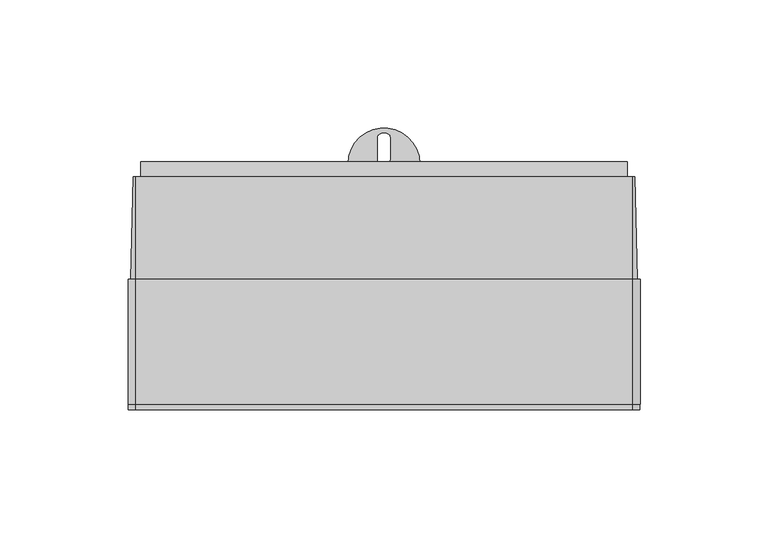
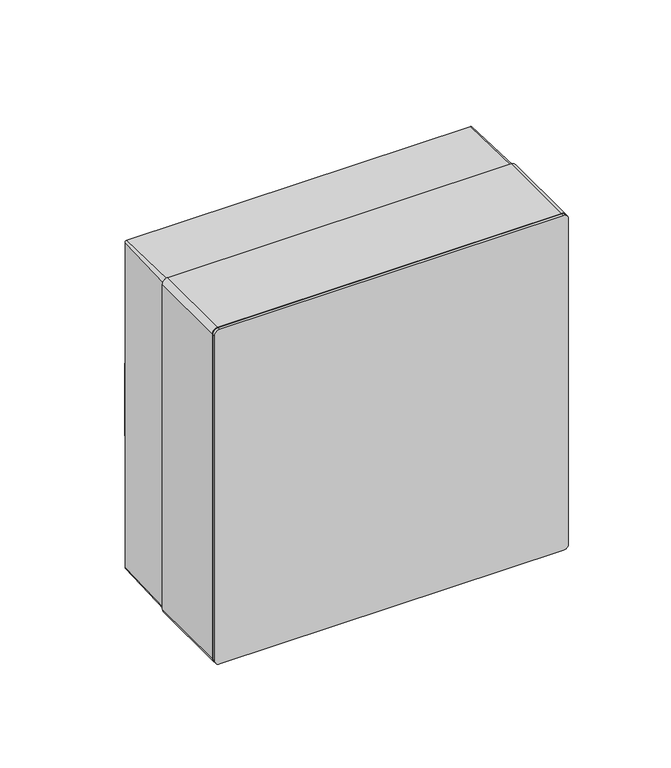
"""IFC4 building model written with IfcOpenShell, lengths in millimetres: proxy geometry, КМПнИ-8 : КМПнИ-8."""

from ifc_helpers import new_model, si_unit, point, frame, frame_2d, origin, place, context, project, spatial, polyline, circle_curve, trimmed, segment, composite_curve, outline, extrude, source, transform, mapped, element, save
from ifc_brep_helpers import plane_surface, cylinder_surface, revolved_surface, advanced_brep


def electrical_equipment_e5c25cb4(model_context):
    return source(origin(), model_context, "Body", "SolidModel", [
        advanced_brep(
        [(95.0, 91.0, 39.1505108), (95.0, 91.0, 158.5875038), (95.0, 81.0, 158.5875038), (95.0, 81.0, 39.1505108), (-95.0, 91.0, 39.1505108), (-95.0, 81.0, 39.1505108), (-95.0, 81.0, 158.5875038), (-95.0, 91.0, 158.5875038), (24.0, 91.0, 158.5875038), (24.0, 81.0, 158.5875038), (-24.0, 81.0, 158.5875038), (-24.0, 91.0, 158.5875038), (-14.0, 91.0, 39.1505108), (14.0, 91.0, 39.1505108), (24.0, 91.0, 165.0875038), (24.0, 88.0, 168.0875038), (24.0, 84.0, 168.0875038), (24.0, 81.0, 165.0875038), (-24.0, 81.0, 165.0875038), (-24.0, 84.0, 168.0875038), (-24.0, 88.0, 168.0875038), (-24.0, 91.0, 165.0875038), (-14.0, 96.0, 39.1505108), (14.0, 96.0, 39.1505108), (-2.5, 98.0, 39.1505108), (-2.5, 106.0, 39.1505108), (-0.5, 108.0, 39.1505108), (0.5, 108.0, 39.1505108), (2.5, 106.0, 39.1505108), (2.5, 98.0, 39.1505108), (0.5, 96.0, 39.1505108), (-0.5, 96.0, 39.1505108), (-14.0, 96.0, 33.1505108), (14.0, 96.0, 33.1505108), (14.0, 91.0, 33.1505108), (-14.0, 91.0, 33.1505108), (-2.5, 98.0, 33.1505108), (-0.5, 96.0, 33.1505108), (0.5, 96.0, 33.1505108), (2.5, 98.0, 33.1505108), (2.5, 106.0, 33.1505108), (0.5, 108.0, 33.1505108), (-0.5, 108.0, 33.1505108), (-2.5, 106.0, 33.1505108)],
        [
            (0, 1, circle_curve(frame((95.0, -181.7178029, 98.8690073), z_axis=(1.0, 0.0, 0.0), x_axis=(0.0, 0.0, -1.0)), 279.1796891)),
            (1, 2),
            (2, 3, circle_curve(frame((95.0, -191.7178029, 98.8690073), z_axis=(-1.0, 0.0, 0.0), x_axis=(0.0, 0.0, -1.0)), 279.1796891)),
            (3, 0),
            (4, 5),
            (5, 6, circle_curve(frame((-95.0, -191.7178029, 98.8690073), z_axis=(1.0, 0.0, 0.0), x_axis=(0.0, 0.0, -1.0)), 279.1796891)),
            (6, 7),
            (7, 4, circle_curve(frame((-95.0, -181.7178029, 98.8690073), z_axis=(-1.0, 0.0, 0.0), x_axis=(0.0, 0.0, -1.0)), 279.1796891)),
            (1, 8),
            (8, 9),
            (9, 2),
            (6, 10),
            (10, 11),
            (11, 7),
            (3, 5),
            (4, 12),
            (12, 13),
            (13, 0),
            (13, 12),
            (11, 8),
            (9, 10),
            (8, 14),
            (14, 15, circle_curve(frame((24.0, 88.0, 165.0875038), z_axis=(1.0, 0.0, 0.0), x_axis=(0.0, 1.0, 0.0)), 3.0)),
            (15, 16),
            (16, 17, circle_curve(frame((24.0, 84.0, 165.0875038), z_axis=(1.0, 0.0, 0.0), x_axis=(0.0, 1.0, 0.0)), 3.0)),
            (17, 9),
            (10, 18),
            (18, 19, circle_curve(frame((-24.0, 84.0, 165.0875038), z_axis=(-1.0, 0.0, 0.0), x_axis=(0.0, 1.0, 0.0)), 3.0)),
            (19, 20),
            (20, 21, circle_curve(frame((-24.0, 88.0, 165.0875038), z_axis=(-1.0, 0.0, 0.0), x_axis=(0.0, 1.0, 0.0)), 3.0)),
            (21, 11),
            (21, 14),
            (20, 15),
            (19, 16),
            (18, 17),
            (22, 12),
            (13, 23),
            (23, 22, circle_curve(frame((0.0, 96.0, 39.1505108), z_axis=(0.0, 0.0, 1.0), x_axis=(1.0, 0.0, 0.0)), 14.0)),
            (24, 25),
            (25, 26, circle_curve(frame((-0.5, 106.0, 39.1505108), z_axis=(0.0, 0.0, -1.0), x_axis=(1.0, 0.0, 0.0)), 2.0)),
            (26, 27),
            (27, 28, circle_curve(frame((0.5, 106.0, 39.1505108), z_axis=(0.0, 0.0, -1.0), x_axis=(1.0, 0.0, 0.0)), 2.0)),
            (28, 29),
            (29, 30, circle_curve(frame((0.5, 98.0, 39.1505108), z_axis=(0.0, 0.0, -1.0), x_axis=(1.0, 0.0, 0.0)), 2.0)),
            (30, 31),
            (31, 24, circle_curve(frame((-0.5, 98.0, 39.1505108), z_axis=(0.0, 0.0, -1.0), x_axis=(1.0, 0.0, 0.0)), 2.0)),
            (32, 33, circle_curve(frame((0.0, 96.0, 33.1505108), z_axis=(0.0, 0.0, -1.0), x_axis=(1.0, 0.0, 0.0)), 14.0)),
            (33, 34),
            (34, 35),
            (35, 32),
            (36, 37, circle_curve(frame((-0.5, 98.0, 33.1505108), z_axis=(0.0, 0.0, 1.0), x_axis=(1.0, 0.0, 0.0)), 2.0)),
            (37, 38),
            (38, 39, circle_curve(frame((0.5, 98.0, 33.1505108), z_axis=(0.0, 0.0, 1.0), x_axis=(1.0, 0.0, 0.0)), 2.0)),
            (39, 40),
            (40, 41, circle_curve(frame((0.5, 106.0, 33.1505108), z_axis=(0.0, 0.0, 1.0), x_axis=(1.0, 0.0, 0.0)), 2.0)),
            (41, 42),
            (42, 43, circle_curve(frame((-0.5, 106.0, 33.1505108), z_axis=(0.0, 0.0, 1.0), x_axis=(1.0, 0.0, 0.0)), 2.0)),
            (43, 36),
            (22, 32),
            (35, 12),
            (34, 13),
            (33, 23),
            (24, 36),
            (43, 25),
            (28, 40),
            (39, 29),
            (42, 26),
            (41, 27),
            (38, 30),
            (37, 31),
        ],
        [
            plane_surface(frame((95.0, -181.7178029, -180.3106818), z_axis=(1.0, 0.0, 0.0), x_axis=(0.0, 1.0, 0.0))),
            plane_surface(frame((-95.0, -181.7178029, -180.3106818), z_axis=(-1.0, 0.0, 0.0), x_axis=(0.0, -1.0, 0.0))),
            plane_surface(frame((95.0, 91.0, 158.5875038), z_axis=(0.0, 0.0, 1.0), x_axis=(-1.0, 0.0, 0.0))),
            plane_surface(frame((95.0, 81.0, 39.1505108), z_axis=(0.0, 0.0, -1.0), x_axis=(-1.0, 0.0, 0.0))),
            cylinder_surface(frame((-95.0, -181.7178029, 98.8690073), z_axis=(1.0, 0.0, 0.0), x_axis=(0.0, 0.0, -1.0)), 279.1796891),
            revolved_surface(polyline([(-95.0, -191.7178029, -180.3106818), (95.0, -191.7178029, -180.3106818)]), (-95.0, -191.7178029, 98.8690073), (-1.0, 0.0, 0.0)),
            plane_surface(frame((24.0, 91.0, 158.5875038), z_axis=(1.0, 0.0, 0.0), x_axis=(0.0, 1.0, 0.0))),
            plane_surface(frame((-24.0, 91.0, 158.5875038), z_axis=(-1.0, 0.0, 0.0), x_axis=(0.0, -1.0, 0.0))),
            plane_surface(frame((24.0, 91.0, 158.5875038), z_axis=(0.0, 1.0, 0.0), x_axis=(-1.0, 0.0, 0.0))),
            cylinder_surface(frame((-24.0, 88.0, 165.0875038), z_axis=(1.0, 0.0, 0.0), x_axis=(0.0, 1.0, 0.0)), 3.0),
            plane_surface(frame((24.0, 88.0, 168.0875038), z_axis=(0.0, 0.0, 1.0), x_axis=(-1.0, 0.0, 0.0))),
            cylinder_surface(frame((-24.0, 84.0, 165.0875038), z_axis=(1.0, 0.0, 0.0), x_axis=(0.0, 1.0, 0.0)), 3.0),
            plane_surface(frame((24.0, 81.0, 165.0875038), z_axis=(0.0, -1.0, 0.0), x_axis=(-1.0, 0.0, 0.0))),
            plane_surface(frame((-14.0, 81.0, 39.1505108), z_axis=(0.0, 0.0, 1.0), x_axis=(0.0, -1.0, 0.0))),
            plane_surface(frame((-14.0, 81.0, 33.1505108), z_axis=(0.0, 0.0, -1.0), x_axis=(0.0, 1.0, 0.0))),
            plane_surface(frame((-14.0, 96.0, 39.1505108), z_axis=(-1.0, 0.0, 0.0), x_axis=(0.0, 0.0, -1.0))),
            plane_surface(frame((-14.0, 91.0, 39.1505108), z_axis=(0.0, -1.0, 0.0), x_axis=(0.0, 0.0, -1.0))),
            plane_surface(frame((14.0, 91.0, 39.1505108), z_axis=(1.0, 0.0, 0.0), x_axis=(0.0, 0.0, -1.0))),
            plane_surface(frame((-2.5, 98.0, 39.1505108), z_axis=(1.0, 0.0, 0.0), x_axis=(0.0, 0.0, -1.0))),
            plane_surface(frame((2.5, 106.0, 39.1505108), z_axis=(-1.0, 0.0, 0.0), x_axis=(0.0, 0.0, -1.0))),
            cylinder_surface(frame((0.0, 96.0, 33.1505108), z_axis=(0.0, 0.0, 1.0), x_axis=(1.0, 0.0, 0.0)), 14.0),
            revolved_surface(polyline([(1.5, 106.0, 33.1505108), (1.5, 106.0, 39.1505108)]), (-0.5, 106.0, -32.1309927), (0.0, 0.0, -1.0)),
            plane_surface(frame((-0.5, 108.0, 39.1505108), z_axis=(0.0, -1.0, 0.0), x_axis=(0.0, 0.0, -1.0))),
            revolved_surface(polyline([(2.5, 106.0, 33.1505108), (2.5, 106.0, 39.1505108)]), (0.5, 106.0, -32.1309927), (0.0, 0.0, -1.0)),
            revolved_surface(polyline([(2.5, 98.0, 33.1505108), (2.5, 98.0, 39.1505108)]), (0.5, 98.0, -32.1309927), (0.0, 0.0, -1.0)),
            plane_surface(frame((0.5, 96.0, 39.1505108), z_axis=(0.0, 1.0, 0.0), x_axis=(0.0, 0.0, -1.0))),
            revolved_surface(polyline([(1.5, 98.0, 33.1505108), (1.5, 98.0, 39.1505108)]), (-0.5, 98.0, -32.1309927), (0.0, 0.0, -1.0)),
        ],
        [
            (0, [[1, 2, 3, 4]]),
            (1, [[5, 6, 7, 8]]),
            (2, [[-2, 9, 10, 11]]),
            (2, [[-7, 12, 13, 14]]),
            (3, [[-4, 15, -5, 16, 17, 18]]),
            (4, [[-1, -18, 19, -16, -8, -14, 20, -9]]),
            (5, [[-3, -11, 21, -12, -6, -15]]),
            (6, [[22, 23, 24, 25, 26, -10]]),
            (7, [[27, 28, 29, 30, 31, -13]]),
            (8, [[-22, -20, -31, 32]]),
            (9, [[-23, -32, -30, 33]]),
            (10, [[-24, -33, -29, 34]]),
            (11, [[-25, -34, -28, 35]]),
            (12, [[-26, -35, -27, -21]]),
            (13, [[36, -19, 37, 38], [39, 40, 41, 42, 43, 44, 45, 46]]),
            (14, [[47, 48, 49, 50], [51, 52, 53, 54, 55, 56, 57, 58]]),
            (15, [[-36, 59, -50, 60]]),
            (16, [[-49, 61, -17, -60]]),
            (17, [[-37, -61, -48, 62]]),
            (18, [[-39, 63, -58, 64]]),
            (19, [[-43, 65, -54, 66]]),
            (20, [[-38, -62, -47, -59]]),
            (21, [[-40, -64, -57, 67]]),
            (22, [[-41, -67, -56, 68]]),
            (23, [[-42, -68, -55, -65]]),
            (24, [[-44, -66, -53, 69]]),
            (25, [[-45, -69, -52, 70]]),
            (26, [[-46, -70, -51, -63]]),
        ],
    ),
        advanced_brep(
        [(80.6663126, 91.0, 190.471979), (80.6663126, 51.0, 190.471979), (90.6663126, 51.0, 190.471979), (90.6663126, 91.0, 190.471979), (97.0, 91.0, 198.0), (98.0, 91.0, 197.0), (98.0, 91.0, 3.0), (97.0, 91.0, 2.0), (-97.0, 91.0, 2.0), (-98.0, 91.0, 3.0), (-98.0, 91.0, 197.0), (-97.0, 91.0, 198.0), (-95.0, 91.0, 159.0), (-95.0, 91.0, 39.0), (-15.0, 91.0, 39.0), (-15.0, 91.0, 31.0), (0.0, 91.0, 31.0), (15.0, 91.0, 31.0), (15.0, 91.0, 39.0), (95.0, 91.0, 39.0), (95.0, 91.0, 159.0), (25.0, 91.0, 159.0), (25.0, 91.0, 169.0), (0.0, 91.0, 169.0), (-25.0, 91.0, 169.0), (-25.0, 91.0, 159.0), (-90.6663126, 91.0, 190.471979), (-80.6663126, 91.0, 190.471979), (90.6663126, 91.0, 9.528021), (80.6663126, 91.0, 9.528021), (-80.6663126, 91.0, 9.528021), (-90.6663126, 91.0, 9.528021), (97.0, 51.0, 199.0), (-97.0, 51.0, 199.0), (-99.0, 51.0, 197.0), (-99.0, 51.0, 3.0), (-97.0, 51.0, 1.0), (97.0, 51.0, 1.0), (99.0, 51.0, 3.0), (99.0, 51.0, 197.0), (-80.6663126, 51.0, 190.471979), (-90.6663126, 51.0, 190.471979), (80.6663126, 51.0, 9.528021), (90.6663126, 51.0, 9.528021), (-90.6663126, 51.0, 9.528021), (-80.6663126, 51.0, 9.528021), (-95.0, 83.4974153, 159.0), (-95.0, 83.4974153, 39.0), (95.0, 83.4974153, 39.0), (95.0, 83.4974153, 159.0), (25.0, 83.4974153, 159.0), (25.0, 83.4974153, 169.0), (0.0, 83.4974153, 169.0), (-25.0, 83.4974153, 169.0), (-25.0, 83.4974153, 159.0), (-15.0, 83.4974153, 39.0), (-15.0, 83.4974153, 31.0), (0.0, 83.4974153, 31.0), (15.0, 83.4974153, 31.0), (15.0, 83.4974153, 39.0)],
        [
            (0, 1),
            (1, 2, circle_curve(frame((85.6663126, 51.0, 190.471979), z_axis=(0.0, -1.0, 0.0), x_axis=(-1.0, 0.0, 0.0)), 5.0)),
            (2, 3),
            (3, 0, circle_curve(frame((85.6663126, 91.0, 190.471979), z_axis=(0.0, 1.0, 0.0), x_axis=(-1.0, 0.0, 0.0)), 5.0)),
            (0, 3, circle_curve(frame((85.6663126, 91.0, 190.471979), z_axis=(0.0, 1.0, 0.0), x_axis=(-1.0, 0.0, 0.0)), 5.0)),
            (2, 1, circle_curve(frame((85.6663126, 51.0, 190.471979), z_axis=(0.0, -1.0, 0.0), x_axis=(-1.0, 0.0, 0.0)), 5.0)),
            (4, 5, circle_curve(frame((97.0, 91.0, 197.0), z_axis=(0.0, 1.0, 0.0), x_axis=(0.0, 0.0, 1.0)), 1.0)),
            (5, 6),
            (6, 7, circle_curve(frame((97.0, 91.0, 3.0), z_axis=(0.0, 1.0, 0.0), x_axis=(1.0, 0.0, 0.0)), 1.0)),
            (7, 8),
            (8, 9, circle_curve(frame((-97.0, 91.0, 3.0), z_axis=(0.0, 1.0, 0.0), x_axis=(0.0, 0.0, -1.0)), 1.0)),
            (9, 10),
            (10, 11, circle_curve(frame((-97.0, 91.0, 197.0), z_axis=(0.0, 1.0, 0.0), x_axis=(-1.0, 0.0, 0.0)), 1.0)),
            (11, 4),
            (12, 13),
            (13, 14),
            (14, 15),
            (15, 16),
            (16, 17),
            (17, 18),
            (18, 19),
            (19, 20),
            (20, 21),
            (21, 22),
            (22, 23),
            (23, 24),
            (24, 25),
            (25, 12),
            (26, 27, circle_curve(frame((-85.6663126, 91.0, 190.471979), z_axis=(0.0, -1.0, 0.0), x_axis=(1.0, 0.0, 0.0)), 5.0)),
            (27, 26, circle_curve(frame((-85.6663126, 91.0, 190.471979), z_axis=(0.0, -1.0, 0.0), x_axis=(1.0, 0.0, 0.0)), 5.0)),
            (28, 29, circle_curve(frame((85.6663126, 91.0, 9.528021), z_axis=(0.0, -1.0, 0.0), x_axis=(-1.0, 0.0, 0.0)), 5.0)),
            (29, 28, circle_curve(frame((85.6663126, 91.0, 9.528021), z_axis=(0.0, -1.0, 0.0), x_axis=(-1.0, 0.0, 0.0)), 5.0)),
            (30, 31, circle_curve(frame((-85.6663126, 91.0, 9.528021), z_axis=(0.0, -1.0, 0.0), x_axis=(1.0, 0.0, 0.0)), 5.0)),
            (31, 30, circle_curve(frame((-85.6663126, 91.0, 9.528021), z_axis=(0.0, -1.0, 0.0), x_axis=(1.0, 0.0, 0.0)), 5.0)),
            (32, 33),
            (33, 34, circle_curve(frame((-97.0, 51.0, 197.0), z_axis=(0.0, -1.0, 0.0), x_axis=(-1.0, 0.0, 0.0)), 2.0)),
            (34, 35),
            (35, 36, circle_curve(frame((-97.0, 51.0, 3.0), z_axis=(0.0, -1.0, 0.0), x_axis=(0.0, 0.0, -1.0)), 2.0)),
            (36, 37),
            (37, 38, circle_curve(frame((97.0, 51.0, 3.0), z_axis=(0.0, -1.0, 0.0), x_axis=(1.0, 0.0, 0.0)), 2.0)),
            (38, 39),
            (39, 32, circle_curve(frame((97.0, 51.0, 197.0), z_axis=(0.0, -1.0, 0.0), x_axis=(0.0, 0.0, 1.0)), 2.0)),
            (40, 41, circle_curve(frame((-85.6663126, 51.0, 190.471979), z_axis=(0.0, 1.0, 0.0), x_axis=(1.0, 0.0, 0.0)), 5.0)),
            (41, 40, circle_curve(frame((-85.6663126, 51.0, 190.471979), z_axis=(0.0, 1.0, 0.0), x_axis=(1.0, 0.0, 0.0)), 5.0)),
            (42, 43, circle_curve(frame((85.6663126, 51.0, 9.528021), z_axis=(0.0, 1.0, 0.0), x_axis=(-1.0, 0.0, 0.0)), 5.0)),
            (43, 42, circle_curve(frame((85.6663126, 51.0, 9.528021), z_axis=(0.0, 1.0, 0.0), x_axis=(-1.0, 0.0, 0.0)), 5.0)),
            (44, 45, circle_curve(frame((-85.6663126, 51.0, 9.528021), z_axis=(0.0, 1.0, 0.0), x_axis=(1.0, 0.0, 0.0)), 5.0)),
            (45, 44, circle_curve(frame((-85.6663126, 51.0, 9.528021), z_axis=(0.0, 1.0, 0.0), x_axis=(1.0, 0.0, 0.0)), 5.0)),
            (11, 33),
            (32, 4),
            (10, 34),
            (9, 35),
            (8, 36),
            (7, 37),
            (6, 38),
            (5, 39),
            (46, 47),
            (47, 13),
            (12, 46),
            (48, 49),
            (49, 20),
            (19, 48),
            (49, 50),
            (50, 21),
            (50, 51),
            (51, 22),
            (51, 52),
            (52, 23),
            (52, 53),
            (53, 24),
            (53, 54),
            (54, 25),
            (54, 46),
            (47, 55),
            (55, 14),
            (55, 56),
            (56, 15),
            (56, 57),
            (57, 16),
            (57, 58),
            (58, 17),
            (58, 59),
            (59, 18),
            (59, 48),
            (26, 41),
            (40, 27),
            (28, 43),
            (42, 29),
            (30, 45),
            (44, 31),
        ],
        [
            revolved_surface(polyline([(80.6663126, 51.0, 190.471979), (80.6663126, 91.0, 190.471979)]), (85.6663126, 91.0, 190.471979), (0.0, -1.0, 0.0)),
            plane_surface(frame((0.0, 91.0, 100.0), z_axis=(0.0, 1.0, 0.0), x_axis=(-1.0, 0.0, 0.0))),
            plane_surface(frame((0.0, 51.0, 100.0), z_axis=(0.0, -1.0, 0.0), x_axis=(-1.0, 0.0, 0.0))),
            plane_surface(frame((0.0, 51.0, 199.0), z_axis=(0.0, 0.024992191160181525, 0.9996876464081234), x_axis=(1.0, 0.0, 0.0))),
            revolved_surface(polyline([(-98.0, 91.0, 197.0), (-99.0, 51.0, 197.0)]), (-97.0, 131.0, 197.0), (0.0, -1.0, 0.0)),
            plane_surface(frame((-99.0, 51.0, 100.0), z_axis=(-0.9996876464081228, 0.024992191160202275, 0.0), x_axis=(0.0, 0.0, 1.0))),
            revolved_surface(polyline([(-97.0, 91.0, 2.0), (-97.0, 51.0, 1.0)]), (-97.0, 131.0, 3.0), (0.0, -1.0, 0.0)),
            plane_surface(frame((0.0, 51.0, 1.0), z_axis=(0.0, 0.0249921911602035, -0.9996876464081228), x_axis=(-1.0, 0.0, 0.0))),
            revolved_surface(polyline([(98.0, 91.0, 3.0), (99.0, 51.0, 3.0)]), (97.0, 131.0, 3.0), (0.0, -1.0, 0.0)),
            plane_surface(frame((99.0, 51.0, 100.0), z_axis=(0.9996876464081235, 0.02499219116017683, 0.0), x_axis=(0.0, 0.0, -1.0))),
            revolved_surface(polyline([(97.0, 91.0, 198.0), (97.0, 51.0, 199.0)]), (97.0, 131.0, 197.0), (0.0, -1.0, 0.0)),
            plane_surface(frame((-95.0, 83.4974153, 159.0), z_axis=(1.0, 0.0, 0.0), x_axis=(0.0, 1.0, 0.0))),
            plane_surface(frame((95.0, 83.4974153, 39.0), z_axis=(-1.0, 0.0, 0.0), x_axis=(0.0, 1.0, 0.0))),
            plane_surface(frame((95.0, 83.4974153, 159.0), z_axis=(0.0, 0.0, -1.0), x_axis=(0.0, 1.0, 0.0))),
            plane_surface(frame((25.0, 83.4974153, 159.0), z_axis=(-1.0, 0.0, 0.0), x_axis=(0.0, 1.0, 0.0))),
            plane_surface(frame((25.0, 83.4974153, 169.0), z_axis=(0.0, 0.0, -1.0), x_axis=(0.0, 1.0, 0.0))),
            plane_surface(frame((0.0, 83.4974153, 169.0), z_axis=(0.0, 0.0, -1.0), x_axis=(0.0, 1.0, 0.0))),
            plane_surface(frame((-25.0, 83.4974153, 169.0), z_axis=(1.0, 0.0, 0.0), x_axis=(0.0, 1.0, 0.0))),
            plane_surface(frame((-25.0, 83.4974153, 159.0), z_axis=(0.0, 0.0, -1.0), x_axis=(0.0, 1.0, 0.0))),
            plane_surface(frame((-95.0, 83.4974153, 39.0), z_axis=(0.0, 0.0, 1.0), x_axis=(0.0, 1.0, 0.0))),
            plane_surface(frame((-15.0, 83.4974153, 39.0), z_axis=(1.0, 0.0, 0.0), x_axis=(0.0, 1.0, 0.0))),
            plane_surface(frame((-15.0, 83.4974153, 31.0), z_axis=(0.0, 0.0, 1.0), x_axis=(0.0, 1.0, 0.0))),
            plane_surface(frame((0.0, 83.4974153, 31.0), z_axis=(0.0, 0.0, 1.0), x_axis=(0.0, 1.0, 0.0))),
            plane_surface(frame((15.0, 83.4974153, 31.0), z_axis=(-1.0, 0.0, 0.0), x_axis=(0.0, 1.0, 0.0))),
            plane_surface(frame((15.0, 83.4974153, 39.0), z_axis=(0.0, 0.0, 1.0), x_axis=(0.0, 1.0, 0.0))),
            revolved_surface(polyline([(-80.6663126, 51.0, 190.471979), (-80.6663126, 91.0, 190.471979)]), (-85.6663126, 91.0, 190.471979), (0.0, -1.0, 0.0)),
            revolved_surface(polyline([(80.6663126, 51.0, 9.528021), (80.6663126, 91.0, 9.528021)]), (85.6663126, 91.0, 9.528021), (0.0, -1.0, 0.0)),
            revolved_surface(polyline([(-80.6663126, 51.0, 9.528021), (-80.6663126, 91.0, 9.528021)]), (-85.6663126, 91.0, 9.528021), (0.0, -1.0, 0.0)),
            plane_surface(frame((-95.0, 83.4974153, 39.0), z_axis=(0.0, 1.0, 0.0), x_axis=(0.0, 0.0, -1.0))),
        ],
        [
            (0, [[1, 2, 3, 4]]),
            (0, [[-1, 5, -3, 6]]),
            (1, [[7, 8, 9, 10, 11, 12, 13, 14], [-4, -5], [15, 16, 17, 18, 19, 20, 21, 22, 23, 24, 25, 26, 27, 28], [29, 30], [31, 32], [33, 34]]),
            (2, [[35, 36, 37, 38, 39, 40, 41, 42], [-2, -6], [43, 44], [45, 46], [47, 48]]),
            (3, [[-14, 49, -35, 50]]),
            (4, [[-13, 51, -36, -49]]),
            (5, [[-12, 52, -37, -51]]),
            (6, [[-11, 53, -38, -52]]),
            (7, [[-10, 54, -39, -53]]),
            (8, [[-9, 55, -40, -54]]),
            (9, [[-8, 56, -41, -55]]),
            (10, [[-7, -50, -42, -56]]),
            (11, [[57, 58, -15, 59]]),
            (12, [[60, 61, -22, 62]]),
            (13, [[63, 64, -23, -61]]),
            (14, [[65, 66, -24, -64]]),
            (15, [[67, 68, -25, -66]]),
            (16, [[69, 70, -26, -68]]),
            (17, [[71, 72, -27, -70]]),
            (18, [[73, -59, -28, -72]]),
            (19, [[74, 75, -16, -58]]),
            (20, [[76, 77, -17, -75]]),
            (21, [[78, 79, -18, -77]]),
            (22, [[80, 81, -19, -79]]),
            (23, [[82, 83, -20, -81]]),
            (24, [[84, -62, -21, -83]]),
            (25, [[85, -43, 86, -29]]),
            (25, [[-85, -30, -86, -44]]),
            (26, [[87, -45, 88, -31]]),
            (26, [[-87, -32, -88, -46]]),
            (27, [[89, -47, 90, -33]]),
            (27, [[-89, -34, -90, -48]]),
            (28, [[-73, -71, -69, -67, -65, -63, -60, -84, -82, -80, -78, -76, -74, -57]]),
        ],
    ),
        extrude(outline(composite_curve([segment(polyline([(200.0, 97.0143257), (200.0, -96.9856743)]), True, "CONTINUOUS"), segment(trimmed(circle_curve(frame_2d((197.0, -96.9856743)), 3.0), [point((200.0, -96.9856743))], [point((197.0, -99.9856743))], False, "CARTESIAN"), True, "CONTINUOUS"), segment(polyline([(197.0, -99.9856743), (3.0, -99.9856743)]), True, "CONTINUOUS"), segment(trimmed(circle_curve(frame_2d((3.0, -96.9856743)), 3.0), [point((3.0, -99.9856743))], [point((0.0, -96.9856743))], False, "CARTESIAN"), True, "CONTINUOUS"), segment(polyline([(0.0, -96.9856743), (0.0, 97.0143257)]), True, "CONTINUOUS"), segment(trimmed(circle_curve(frame_2d((3.0, 97.0143257)), 3.0), [point((0.0, 97.0143257))], [point((3.0, 100.0143257))], False, "CARTESIAN"), True, "CONTINUOUS"), segment(polyline([(3.0, 100.0143257), (197.0, 100.0143257)]), True, "CONTINUOUS"), segment(trimmed(circle_curve(frame_2d((197.0, 97.0143257)), 3.0), [point((197.0, 100.0143257))], [point((200.0, 97.0143257))], False, "CARTESIAN"), True, "CONTINUOUS")], self_intersect=False), holes=[polyline([(148.4981471, 91.4911629), (51.5018529, 91.4911629), (51.5018529, -91.4911629), (148.4981471, -91.4911629), (148.4981471, 91.4911629)])]), frame((0.0, 2.0, 0.0), z_axis=(0.0, 1.0, 0.0), x_axis=(0.0, 0.0, 1.0)), (0.0, 0.0, 1.0), 49.0),
        extrude(outline(composite_curve([segment(polyline([(199.9759122, 97.0015594), (199.9759122, -96.9729081)]), True, "CONTINUOUS"), segment(trimmed(circle_curve(frame_2d((196.9707093, -96.9729081)), 3.0052029), [point((199.9759122, -96.9729081))], [point((196.9707093, -99.978111))], False, "CARTESIAN"), True, "CONTINUOUS"), segment(polyline([(196.9707093, -99.978111), (3.0081273, -99.978111)]), True, "CONTINUOUS"), segment(trimmed(circle_curve(frame_2d((3.0398721, -96.9834898)), 2.9947895), [point((3.0081273, -99.978111))], [point((0.0452509, -96.9517444))], False, "CARTESIAN"), True, "CONTINUOUS"), segment(polyline([(0.0452509, -96.9517444), (0.0029241, 97.0015591)]), True, "CONTINUOUS"), segment(trimmed(circle_curve(frame_2d((3.0187087, 96.9909777)), 3.0158032), [point((0.0029241, 97.0015591))], [point((3.0292907, 100.0067623))], False, "CARTESIAN"), True, "CONTINUOUS"), segment(polyline([(3.0292907, 100.0067623), (196.9707093, 100.0067623)]), True, "CONTINUOUS"), segment(trimmed(circle_curve(frame_2d((196.9707093, 97.0015594)), 3.0052029), [point((196.9707093, 100.0067623))], [point((199.9759122, 97.0015594))], False, "CARTESIAN"), True, "CONTINUOUS")], self_intersect=False)), frame((0.0, 0.0, 0.0), z_axis=(0.0, 1.0, 0.0), x_axis=(0.0, 0.0, 1.0)), (0.0, 0.0, 1.0), 2.0),
    ])


if __name__ == "__main__":
    model = new_model("IFC4")
    model_context = context("Model", 3, world=origin())
    ifc_project = project(units=[si_unit("LENGTHUNIT", "METRE", prefix="MILLI")], contexts=[model_context])
    site = spatial("IfcSite", under=ifc_project)
    building = spatial("IfcBuilding", under=site)
    placement = place(None, origin())
    electrical_equipment_shape = electrical_equipment_e5c25cb4(model_context)
    element("IfcBuildingElementProxy", 1, Name="КМПнИ-8 : КМПнИ-8", ObjectType="КМПнИ-8 : КМПнИ-8", at=placement, inside=building, context=model_context, shape_type="MappedRepresentation", body=[
        mapped(electrical_equipment_shape, transform((0.0, 0.0, 0.0), x_axis=(1.0, 0.0, 0.0), y_axis=(0.0, 1.0, 0.0), z_axis=(0.0, 0.0, 1.0))),
    ])
    save(model, "model.ifc")
